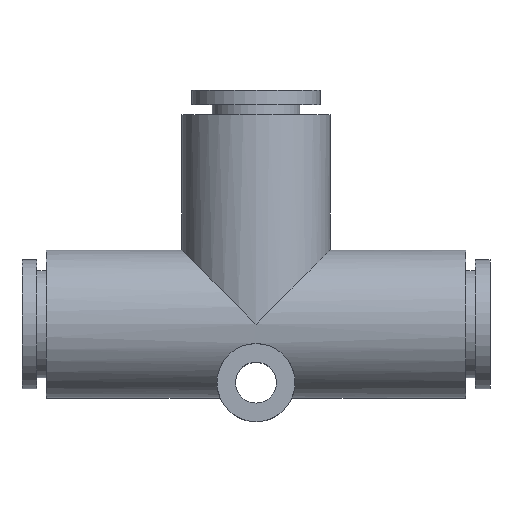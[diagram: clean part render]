
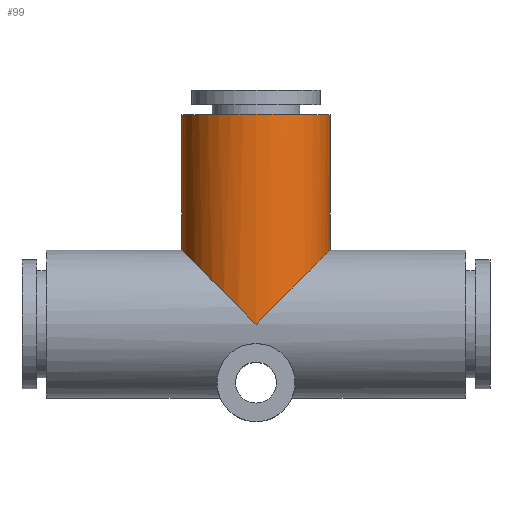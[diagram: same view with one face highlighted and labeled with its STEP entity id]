
A CAD part, top view. The second image highlights one B-rep face of the part: STEP entity #99.
In plain terms, the highlighted cylindrical face has radius 7.6 mm (diameter 15.2 mm), a partial arc.
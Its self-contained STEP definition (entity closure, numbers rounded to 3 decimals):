
#99 = ADVANCED_FACE( '', ( #167 ), #168, .T. );
#167 = FACE_OUTER_BOUND( '', #260, .T. );
#168 = CYLINDRICAL_SURFACE( '', #261, 7.6 );
#260 = EDGE_LOOP( '', ( #479, #480, #481, #482, #483 ) );
#261 = AXIS2_PLACEMENT_3D( '', #484, #485, #486 );
#479 = ORIENTED_EDGE( '', *, *, #641, .T. );
#480 = ORIENTED_EDGE( '', *, *, #679, .F. );
#481 = ORIENTED_EDGE( '', *, *, #642, .T. );
#482 = ORIENTED_EDGE( '', *, *, #680, .F. );
#483 = ORIENTED_EDGE( '', *, *, #681, .F. );
#484 = CARTESIAN_POINT( '', ( 0., 10.75, 0. ) );
#485 = DIRECTION( '', ( 0., -1., 0. ) );
#486 = DIRECTION( '', ( 1., 0., 0. ) );
#641 = EDGE_CURVE( '', #713, #766, #767, .T. );
#642 = EDGE_CURVE( '', #768, #729, #769, .T. );
#679 = EDGE_CURVE( '', #768, #766, #828, .T. );
#680 = EDGE_CURVE( '', #829, #729, #830, .T. );
#681 = EDGE_CURVE( '', #713, #829, #831, .T. );
#713 = VERTEX_POINT( '', #867 );
#729 = VERTEX_POINT( '', #957 );
#766 = VERTEX_POINT( '', #1003 );
#767 = LINE( '', #1004, #1005 );
#768 = VERTEX_POINT( '', #1006 );
#769 = LINE( '', #1007, #1008 );
#828 = CIRCLE( '', #1150, 7.6 );
#829 = VERTEX_POINT( '', #1151 );
#830 = ELLIPSE( '', #1152, 10.748, 7.6 );
#831 = ELLIPSE( '', #1153, 10.748, 7.6 );
#867 = CARTESIAN_POINT( '', ( 7.6, 7.6, 0. ) );
#957 = CARTESIAN_POINT( '', ( -7.6, 7.6, 0. ) );
#1003 = CARTESIAN_POINT( '', ( 7.6, 21.5, 0. ) );
#1004 = CARTESIAN_POINT( '', ( 7.6, 10.75, 0. ) );
#1005 = VECTOR( '', #1232, 1. );
#1006 = CARTESIAN_POINT( '', ( -7.6, 21.5, 0. ) );
#1007 = CARTESIAN_POINT( '', ( -7.6, 10.75, 0. ) );
#1008 = VECTOR( '', #1233, 1. );
#1150 = AXIS2_PLACEMENT_3D( '', #1309, #1310, #1311 );
#1151 = CARTESIAN_POINT( '', ( 0., 0., 7.6 ) );
#1152 = AXIS2_PLACEMENT_3D( '', #1312, #1313, #1314 );
#1153 = AXIS2_PLACEMENT_3D( '', #1315, #1316, #1317 );
#1232 = DIRECTION( '', ( 0., 1., 0. ) );
#1233 = DIRECTION( '', ( 0., -1., 0. ) );
#1309 = CARTESIAN_POINT( '', ( 0., 21.5, 0. ) );
#1310 = DIRECTION( '', ( 0., 1., 0. ) );
#1311 = DIRECTION( '', ( 1., 0., 0. ) );
#1312 = CARTESIAN_POINT( '', ( 0., 0., 0. ) );
#1313 = DIRECTION( '', ( -0.707, -0.707, 0. ) );
#1314 = DIRECTION( '', ( 0.707, -0.707, 0. ) );
#1315 = CARTESIAN_POINT( '', ( 0., 0., 0. ) );
#1316 = DIRECTION( '', ( 0.707, -0.707, 0. ) );
#1317 = DIRECTION( '', ( 0.707, 0.707, 0. ) );
